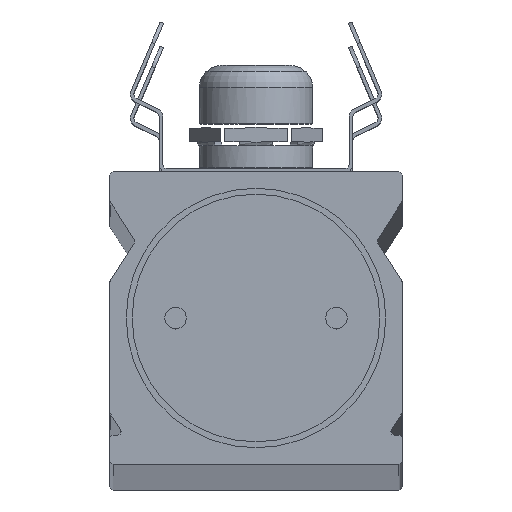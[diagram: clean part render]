
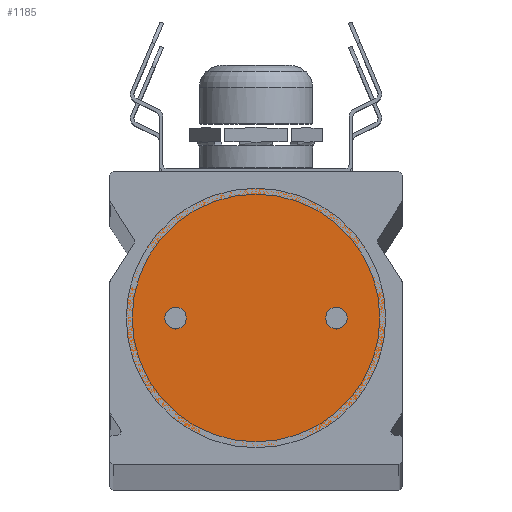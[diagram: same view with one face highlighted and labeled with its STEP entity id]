
A CAD part, top view. The second image highlights one B-rep face of the part: STEP entity #1185.
In plain terms, the highlighted planar face has unit normal (0, 0, 1).
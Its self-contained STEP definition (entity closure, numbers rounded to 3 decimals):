
#1092=CARTESIAN_POINT('',(0.,20.,2018.));
#1093=DIRECTION('',(0.,0.,-1.));
#1094=DIRECTION('',(-1.,0.,0.));
#1095=AXIS2_PLACEMENT_3D('',#1092,#1093,#1094);
#1097=CARTESIAN_POINT('',(0.,20.,2018.));
#1098=DIRECTION('',(0.,0.,-1.));
#1099=DIRECTION('',(1.,0.,0.));
#1100=AXIS2_PLACEMENT_3D('',#1097,#1098,#1099);
#1102=CARTESIAN_POINT('',(11.,20.,2018.));
#1103=DIRECTION('',(0.,0.,1.));
#1104=DIRECTION('',(-1.,0.,0.));
#1105=AXIS2_PLACEMENT_3D('',#1102,#1103,#1104);
#1107=CARTESIAN_POINT('',(11.,20.,2018.));
#1108=DIRECTION('',(0.,0.,1.));
#1109=DIRECTION('',(1.,0.,0.));
#1110=AXIS2_PLACEMENT_3D('',#1107,#1108,#1109);
#1112=CARTESIAN_POINT('',(-11.,20.,2018.));
#1113=DIRECTION('',(0.,0.,1.));
#1114=DIRECTION('',(-1.,0.,0.));
#1115=AXIS2_PLACEMENT_3D('',#1112,#1113,#1114);
#1117=CARTESIAN_POINT('',(-11.,20.,2018.));
#1118=DIRECTION('',(0.,0.,1.));
#1119=DIRECTION('',(1.,0.,0.));
#1120=AXIS2_PLACEMENT_3D('',#1117,#1118,#1119);
#1142=CARTESIAN_POINT('',(-17.75,20.,2018.));
#1143=CARTESIAN_POINT('',(17.75,20.,2018.));
#1144=VERTEX_POINT('',#1142);
#1145=VERTEX_POINT('',#1143);
#1154=CARTESIAN_POINT('',(9.5,20.,2018.));
#1155=CARTESIAN_POINT('',(12.5,20.,2018.));
#1156=VERTEX_POINT('',#1154);
#1157=VERTEX_POINT('',#1155);
#1158=CARTESIAN_POINT('',(-12.5,20.,2018.));
#1159=CARTESIAN_POINT('',(-9.5,20.,2018.));
#1160=VERTEX_POINT('',#1158);
#1161=VERTEX_POINT('',#1159);
#1162=CARTESIAN_POINT('',(0.,20.,2018.));
#1163=DIRECTION('',(0.,0.,-1.));
#1164=DIRECTION('',(-1.,0.,0.));
#1165=AXIS2_PLACEMENT_3D('',#1162,#1163,#1164);
#1166=PLANE('',#1165);
#1168=ORIENTED_EDGE('',*,*,#1167,.T.);
#1170=ORIENTED_EDGE('',*,*,#1169,.T.);
#1171=EDGE_LOOP('',(#1168,#1170));
#1172=FACE_OUTER_BOUND('',#1171,.F.);
#1174=ORIENTED_EDGE('',*,*,#1173,.T.);
#1176=ORIENTED_EDGE('',*,*,#1175,.T.);
#1177=EDGE_LOOP('',(#1174,#1176));
#1178=FACE_BOUND('',#1177,.F.);
#1180=ORIENTED_EDGE('',*,*,#1179,.T.);
#1182=ORIENTED_EDGE('',*,*,#1181,.T.);
#1183=EDGE_LOOP('',(#1180,#1182));
#1184=FACE_BOUND('',#1183,.F.);
#1185=ADVANCED_FACE('',(#1172,#1178,#1184),#1166,.F.);
#1096=CIRCLE('',#1095,17.75);
#1101=CIRCLE('',#1100,17.75);
#1106=CIRCLE('',#1105,1.5);
#1111=CIRCLE('',#1110,1.5);
#1116=CIRCLE('',#1115,1.5);
#1121=CIRCLE('',#1120,1.5);
#1167=EDGE_CURVE('',#1144,#1145,#1096,.T.);
#1169=EDGE_CURVE('',#1145,#1144,#1101,.T.);
#1173=EDGE_CURVE('',#1156,#1157,#1106,.T.);
#1175=EDGE_CURVE('',#1157,#1156,#1111,.T.);
#1179=EDGE_CURVE('',#1160,#1161,#1116,.T.);
#1181=EDGE_CURVE('',#1161,#1160,#1121,.T.);
